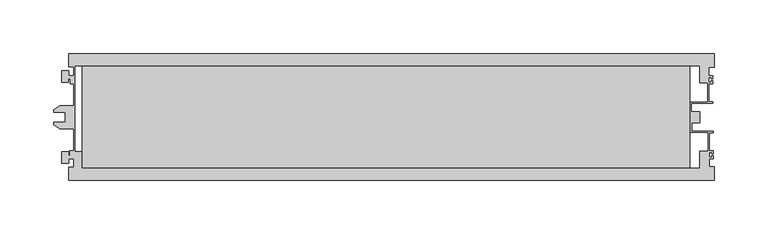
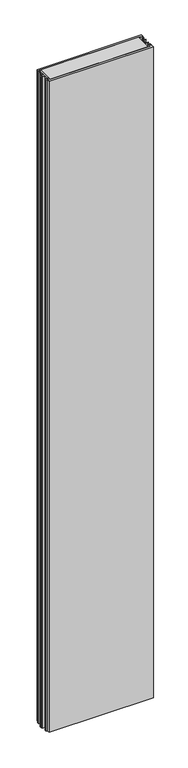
"""IFC4 building model written with IfcOpenShell, lengths in millimetres: plate geometry, Walls_External-Walls_Danpal_Danpatherm-K12 : Walls_External-Walls_Danpal_Danpatherm-K12."""

from ifc_helpers import new_model, si_unit, frame, origin, place, context, project, spatial, polyline, outline, extrude, source, transform, mapped, element, save


def plate_ac36bfde(model_context):
    return source(origin(), model_context, "Body", "SweptSolid", [
        extrude(outline(polyline([(274.6184743, 11.5), (-289.8606362, 11.5), (-289.8606362, 105.9), (274.6184743, 105.9), (274.6184743, 11.5)])), frame((0.0, 0.0, -29.0), z_axis=(0.0, 0.0, 1.0), x_axis=(1.0, 0.0, 0.0)), (0.0, 0.0, 1.0), 3952.2118076),
        extrude(outline(polyline([(-302.5, 0.0), (-302.5, 12.0), (-297.8073464, 12.0), (-297.8073464, 19.8235008), (-302.439876, 19.8235008), (-302.439876, 15.7697721), (-308.8872445, 15.7697721), (-308.8872445, 26.3618773), (-302.5, 26.3618773), (-302.5, 22.8208692), (-301.407343, 22.8208692), (-301.407343, 27.4235008), (-297.7, 27.4235008), (-297.7, 47.6749188), (-310.7714928, 47.6749188), (-316.1600052, 51.6018507), (-316.1600052, 53.8499188), (-305.3266718, 53.8499188), (-305.3266718, 63.1232521), (-316.1600052, 63.1232521), (-316.1600052, 65.3713202), (-310.7714928, 69.2982521), (-297.4, 69.2982521), (-297.4, 89.4749648), (-300.9999965, 89.4749648), (-300.9999965, 94.0775963), (-302.5127555, 94.0775963), (-302.5127555, 91.0381227), (-308.9, 91.0381227), (-308.9, 101.6302279), (-302.4526316, 101.6302279), (-302.4526316, 97.0749648), (-297.4, 97.0749648), (-297.4, 105.4), (-302.5, 105.4), (-302.5, 117.4), (297.5, 117.4), (297.5, 104.9), (292.4, 104.9), (292.4, 97.0749648), (295.9999965, 97.0749648), (295.9999965, 94.2749648), (294.6999965, 94.2749648), (294.6999965, 95.7749648), (292.3, 95.7749648), (292.3, 90.7749648), (294.6999965, 90.7749648), (294.6999965, 92.2749648), (295.9999965, 92.2749648), (295.9999965, 89.4749648), (292.4, 89.4749648), (292.4, 72.6749349), (295.9999965, 72.6749349), (295.9999965, 71.3749594), (276.2999848, 71.3749594), (276.2999848, 63.5500812), (283.9999848, 63.5500812), (283.9999848, 53.3499188), (276.8654904, 53.3499188), (276.8654904, 45.5250406), (296.5655022, 45.5250406), (296.5655022, 44.2251011), (292.9655056, 44.2251011), (292.9653041, 27.4250712), (296.565297, 27.4250712), (296.565297, 24.6250436), (295.2652706, 24.6250436), (295.2652706, 26.1250508), (292.8652849, 26.1250508), (292.8652849, 21.1250724), (295.2652287, 21.1250724), (295.2652287, 22.6250436), (296.5652394, 22.6250436), (296.5652394, 19.8250352), (292.9652129, 19.8250352), (292.9651236, 12.3834733), (297.5, 12.326688), (297.5, 0.0), (-302.5, 0.0)]), holes=[polyline([(283.6999848, 11.5), (283.66868, 27.5010583), (291.5655046, 27.4021751), (291.5655046, 44.143617), (274.6184743, 44.143617), (274.6184743, 72.9749349), (291.0, 72.9749349), (291.0, 89.9), (283.5512195, 89.9), (283.4884259, 105.9), (-296.4452172, 105.9), (-296.4452172, 27.0), (-289.8606362, 27.0), (-289.8606362, 11.5), (283.6999848, 11.5)])]), frame((0.0, 0.0, -29.0), z_axis=(0.0, 0.0, 1.0), x_axis=(1.0, 0.0, 0.0)), (0.0, 0.0, 1.0), 3952.2118076),
    ])


if __name__ == "__main__":
    model = new_model("IFC4")
    model_context = context("Model", 3, world=origin())
    ifc_project = project(units=[si_unit("LENGTHUNIT", "METRE", prefix="MILLI")], contexts=[model_context])
    site = spatial("IfcSite", under=ifc_project)
    building = spatial("IfcBuilding", under=site)
    placement = place(None, origin())
    plate_shape = plate_ac36bfde(model_context)
    element("IfcPlate", 1, ObjectType="Walls_External-Walls_Danpal_Danpatherm-K12 : Walls_External-Walls_Danpal_Danpatherm-K12", at=placement, inside=building, context=model_context, shape_type="MappedRepresentation", body=[
        mapped(plate_shape, transform((0.0, 0.0, 0.0), x_axis=(1.0, 0.0, 0.0), y_axis=(0.0, 1.0, 0.0), z_axis=(0.0, 0.0, 1.0))),
    ])
    save(model, "model.ifc")
